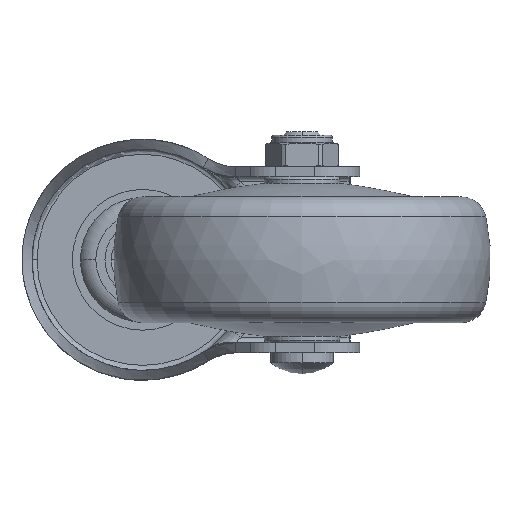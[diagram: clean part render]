
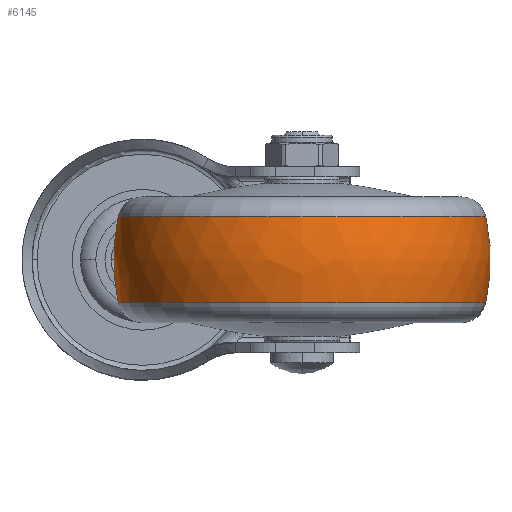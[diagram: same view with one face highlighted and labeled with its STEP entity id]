
A CAD part, front view. The second image highlights one B-rep face of the part: STEP entity #6145.
In plain terms, the highlighted free-form (B-spline) face has degree [3, 3] with [7, 4] control points.
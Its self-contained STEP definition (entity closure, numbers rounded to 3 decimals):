
#5849=CARTESIAN_POINT('',(0.,-2.5,0.));
#5850=DIRECTION('',(0.,0.,1.));
#5851=DIRECTION('',(0.214,0.977,0.));
#5852=AXIS2_PLACEMENT_3D('',#5849,#5850,#5851);
#5854=CARTESIAN_POINT('',(0.,2.5,0.));
#5855=DIRECTION('',(0.,0.,-1.));
#5856=DIRECTION('',(0.214,-0.977,0.));
#5857=AXIS2_PLACEMENT_3D('',#5854,#5855,#5856);
#5859=CARTESIAN_POINT('',(8.571,0.,0.));
#5860=DIRECTION('',(-1.,0.,0.));
#5861=DIRECTION('',(0.,1.,0.));
#5862=AXIS2_PLACEMENT_3D('',#5859,#5860,#5861);
#5884=CARTESIAN_POINT('',(-8.571,0.,0.));
#5885=DIRECTION('',(-1.,0.,0.));
#5886=DIRECTION('',(0.,1.,0.));
#5887=AXIS2_PLACEMENT_3D('',#5884,#5885,#5886);
#5902=CARTESIAN_POINT('',(8.571,36.571,0.));
#5904=VERTEX_POINT('',#5902);
#5905=CARTESIAN_POINT('',(-8.571,36.571,0.));
#5906=VERTEX_POINT('',#5905);
#5922=CARTESIAN_POINT('',(8.571,-36.571,0.));
#5924=VERTEX_POINT('',#5922);
#5925=CARTESIAN_POINT('',(-8.571,-36.571,0.));
#5926=VERTEX_POINT('',#5925);
#6107=CARTESIAN_POINT('',(-8.909,-36.423,
2.292));
#6108=CARTESIAN_POINT('',(-3.02,-37.766,
2.376));
#6109=CARTESIAN_POINT('',(3.02,-37.766,2.376));
#6110=CARTESIAN_POINT('',(8.909,-36.423,2.292));
#6111=CARTESIAN_POINT('',(-8.909,-37.834,
-20.123));
#6112=CARTESIAN_POINT('',(-3.02,-39.228,
-20.865));
#6113=CARTESIAN_POINT('',(3.02,-39.228,
-20.865));
#6114=CARTESIAN_POINT('',(8.909,-37.834,
-20.123));
#6115=CARTESIAN_POINT('',(-8.909,-22.459,
-36.495));
#6116=CARTESIAN_POINT('',(-3.02,-23.287,
-37.841));
#6117=CARTESIAN_POINT('',(3.02,-23.287,
-37.841));
#6118=CARTESIAN_POINT('',(8.909,-22.459,
-36.495));
#6119=CARTESIAN_POINT('',(-8.909,0.,-36.495));
#6120=CARTESIAN_POINT('',(-3.02,0.,-37.841));
#6121=CARTESIAN_POINT('',(3.02,0.,-37.841));
#6122=CARTESIAN_POINT('',(8.909,0.,
-36.495));
#6123=CARTESIAN_POINT('',(-8.909,22.459,
-36.495));
#6124=CARTESIAN_POINT('',(-3.02,23.287,
-37.841));
#6125=CARTESIAN_POINT('',(3.02,23.287,-37.841));
#6126=CARTESIAN_POINT('',(8.909,22.459,-36.495));
#6127=CARTESIAN_POINT('',(-8.909,37.834,
-20.123));
#6128=CARTESIAN_POINT('',(-3.02,39.228,
-20.865));
#6129=CARTESIAN_POINT('',(3.02,39.228,-20.865));
#6130=CARTESIAN_POINT('',(8.909,37.834,-20.123));
#6131=CARTESIAN_POINT('',(-8.909,36.423,2.292));
#6132=CARTESIAN_POINT('',(-3.02,37.766,2.376));
#6133=CARTESIAN_POINT('',(3.02,37.766,2.376));
#6134=CARTESIAN_POINT('',(8.909,36.423,2.292));
#6135=(BOUNDED_SURFACE()B_SPLINE_SURFACE(3,3,((#6107,#6108,#6109,#6110),(#6111,
#6112,#6113,#6114),(#6115,#6116,#6117,#6118),(#6119,#6120,#6121,#6122),(#6123,
#6124,#6125,#6126),(#6127,#6128,#6129,#6130),(#6131,#6132,#6133,#6134)),
.UNSPECIFIED.,.F.,.F.,.F.)B_SPLINE_SURFACE_WITH_KNOTS((4,3,4),(4,4),(0.,1.,
2.),(0.,1.),.UNSPECIFIED.)GEOMETRIC_REPRESENTATION_ITEM()RATIONAL_B_SPLINE_SURFACE(((1.202,1.182,1.182,1.202),(
0.95,0.934,0.934,0.95),(
0.95,0.934,0.934,0.95),(
1.202,1.182,1.182,1.202),(
0.95,0.934,0.934,0.95),(
0.95,0.934,0.934,0.95),(
1.202,1.182,1.182,1.202)))REPRESENTATION_ITEM('')SURFACE());
#6137=ORIENTED_EDGE('',*,*,#6136,.T.);
#6139=ORIENTED_EDGE('',*,*,#6138,.T.);
#6141=ORIENTED_EDGE('',*,*,#6140,.F.);
#6142=ORIENTED_EDGE('',*,*,#6100,.F.);
#6143=EDGE_LOOP('',(#6137,#6139,#6141,#6142));
#6144=FACE_OUTER_BOUND('',#6143,.F.);
#5853=CIRCLE('',#5852,40.);
#5858=CIRCLE('',#5857,40.);
#5863=CIRCLE('',#5862,36.571);
#5888=CIRCLE('',#5887,36.571);
#6100=EDGE_CURVE('',#5904,#5924,#5863,.T.);
#6136=EDGE_CURVE('',#5904,#5906,#5853,.T.);
#6138=EDGE_CURVE('',#5906,#5926,#5888,.T.);
#6140=EDGE_CURVE('',#5924,#5926,#5858,.T.);
#6145=ADVANCED_FACE('',(#6144),#6135,.T.);
